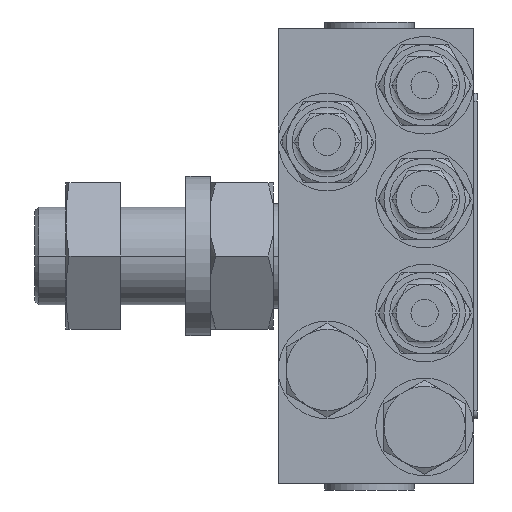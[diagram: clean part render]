
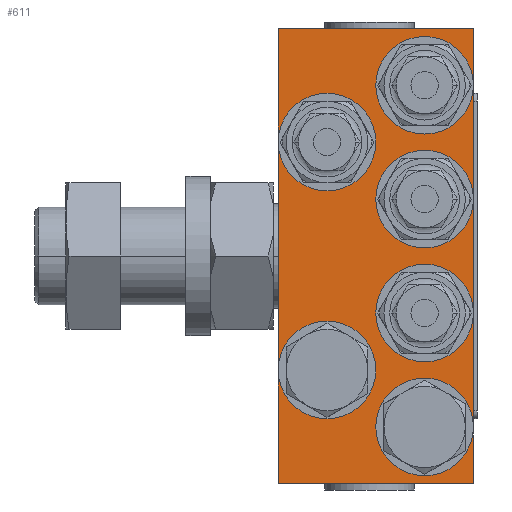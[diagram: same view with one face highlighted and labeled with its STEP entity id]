
A CAD part, left-side view. The second image highlights one B-rep face of the part: STEP entity #611.
In plain terms, the highlighted planar face has unit normal (-1, 0, 0).
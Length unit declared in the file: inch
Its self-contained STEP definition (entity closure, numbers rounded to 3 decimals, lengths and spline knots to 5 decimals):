
#1=DIRECTION('',(0.,-1.,0.));
#2=VECTOR('',#1,1.5);
#3=CARTESIAN_POINT('',(-0.5,0.75,0.));
#4=LINE('',#3,#2);
#17=CARTESIAN_POINT('',(-0.5,0.375,0.875));
#18=DIRECTION('',(-1.,0.,0.));
#19=DIRECTION('',(0.,1.,0.));
#20=AXIS2_PLACEMENT_3D('',#17,#18,#19);
#22=CARTESIAN_POINT('',(-0.5,0.375,0.875));
#23=DIRECTION('',(-1.,0.,0.));
#24=DIRECTION('',(0.,-1.,0.));
#25=AXIS2_PLACEMENT_3D('',#22,#23,#24);
#27=DIRECTION('',(0.,0.,1.));
#28=VECTOR('',#27,1.75);
#29=CARTESIAN_POINT('',(-0.5,0.75,0.875));
#30=LINE('',#29,#28);
#31=CARTESIAN_POINT('',(-0.5,0.375,2.625));
#32=DIRECTION('',(-1.,0.,0.));
#33=DIRECTION('',(0.,1.,0.));
#34=AXIS2_PLACEMENT_3D('',#31,#32,#33);
#36=CARTESIAN_POINT('',(-0.5,0.375,2.625));
#37=DIRECTION('',(-1.,0.,0.));
#38=DIRECTION('',(0.,-1.,0.));
#39=AXIS2_PLACEMENT_3D('',#36,#37,#38);
#41=DIRECTION('',(0.,0.,1.));
#42=VECTOR('',#41,0.875);
#43=CARTESIAN_POINT('',(-0.5,0.75,2.625));
#44=LINE('',#43,#42);
#45=CARTESIAN_POINT('',(-0.5,-0.375,3.062));
#46=DIRECTION('',(-1.,0.,0.));
#47=DIRECTION('',(0.,-1.,0.));
#48=AXIS2_PLACEMENT_3D('',#45,#46,#47);
#50=CARTESIAN_POINT('',(-0.5,-0.375,3.062));
#51=DIRECTION('',(-1.,0.,0.));
#52=DIRECTION('',(0.,1.,0.));
#53=AXIS2_PLACEMENT_3D('',#50,#51,#52);
#55=CARTESIAN_POINT('',(-0.5,-0.375,2.187));
#56=DIRECTION('',(-1.,0.,0.));
#57=DIRECTION('',(0.,-1.,0.));
#58=AXIS2_PLACEMENT_3D('',#55,#56,#57);
#60=CARTESIAN_POINT('',(-0.5,-0.375,2.187));
#61=DIRECTION('',(-1.,0.,0.));
#62=DIRECTION('',(0.,1.,0.));
#63=AXIS2_PLACEMENT_3D('',#60,#61,#62);
#65=CARTESIAN_POINT('',(-0.5,-0.375,1.312));
#66=DIRECTION('',(-1.,0.,0.));
#67=DIRECTION('',(0.,-1.,0.));
#68=AXIS2_PLACEMENT_3D('',#65,#66,#67);
#70=CARTESIAN_POINT('',(-0.5,-0.375,1.312));
#71=DIRECTION('',(-1.,0.,0.));
#72=DIRECTION('',(0.,1.,0.));
#73=AXIS2_PLACEMENT_3D('',#70,#71,#72);
#75=CARTESIAN_POINT('',(-0.5,-0.375,0.437));
#76=DIRECTION('',(-1.,0.,0.));
#77=DIRECTION('',(0.,-1.,0.));
#78=AXIS2_PLACEMENT_3D('',#75,#76,#77);
#80=CARTESIAN_POINT('',(-0.5,-0.375,0.437));
#81=DIRECTION('',(-1.,0.,0.));
#82=DIRECTION('',(0.,1.,0.));
#83=AXIS2_PLACEMENT_3D('',#80,#81,#82);
#85=DIRECTION('',(0.,0.,1.));
#86=VECTOR('',#85,0.875);
#87=CARTESIAN_POINT('',(-0.5,0.75,0.));
#88=LINE('',#87,#86);
#217=DIRECTION('',(0.,0.,1.));
#218=VECTOR('',#217,0.437);
#219=CARTESIAN_POINT('',(-0.5,-0.75,0.));
#220=LINE('',#219,#218);
#221=DIRECTION('',(0.,0.,1.));
#222=VECTOR('',#221,0.875);
#223=CARTESIAN_POINT('',(-0.5,-0.75,0.437));
#224=LINE('',#223,#222);
#225=DIRECTION('',(0.,0.,1.));
#226=VECTOR('',#225,0.875);
#227=CARTESIAN_POINT('',(-0.5,-0.75,1.312));
#228=LINE('',#227,#226);
#229=DIRECTION('',(0.,0.,1.));
#230=VECTOR('',#229,0.875);
#231=CARTESIAN_POINT('',(-0.5,-0.75,2.187));
#232=LINE('',#231,#230);
#233=DIRECTION('',(0.,0.,1.));
#234=VECTOR('',#233,0.438);
#235=CARTESIAN_POINT('',(-0.5,-0.75,3.062));
#236=LINE('',#235,#234);
#237=DIRECTION('',(0.,-1.,0.));
#238=VECTOR('',#237,1.5);
#239=CARTESIAN_POINT('',(-0.5,0.75,3.5));
#240=LINE('',#239,#238);
#433=CARTESIAN_POINT('',(-0.5,0.75,0.));
#434=CARTESIAN_POINT('',(-0.5,-0.75,0.));
#435=VERTEX_POINT('',#433);
#436=VERTEX_POINT('',#434);
#441=CARTESIAN_POINT('',(-0.5,0.75,3.5));
#442=CARTESIAN_POINT('',(-0.5,-0.75,3.5));
#443=VERTEX_POINT('',#441);
#444=VERTEX_POINT('',#442);
#451=CARTESIAN_POINT('',(-0.5,-0.75,3.062));
#452=VERTEX_POINT('',#451);
#487=CARTESIAN_POINT('',(-0.5,0.,3.062));
#488=VERTEX_POINT('',#487);
#493=CARTESIAN_POINT('',(-0.5,0.,2.187));
#494=CARTESIAN_POINT('',(-0.5,-0.75,2.187));
#495=VERTEX_POINT('',#493);
#496=VERTEX_POINT('',#494);
#501=CARTESIAN_POINT('',(-0.5,0.,1.312));
#502=CARTESIAN_POINT('',(-0.5,-0.75,1.312));
#503=VERTEX_POINT('',#501);
#504=VERTEX_POINT('',#502);
#509=CARTESIAN_POINT('',(-0.5,0.,0.437));
#510=CARTESIAN_POINT('',(-0.5,-0.75,0.437));
#511=VERTEX_POINT('',#509);
#512=VERTEX_POINT('',#510);
#533=CARTESIAN_POINT('',(-0.5,0.75,2.625));
#534=CARTESIAN_POINT('',(-0.5,0.,2.625));
#535=VERTEX_POINT('',#533);
#536=VERTEX_POINT('',#534);
#541=CARTESIAN_POINT('',(-0.5,0.75,0.875));
#542=CARTESIAN_POINT('',(-0.5,0.,0.875));
#543=VERTEX_POINT('',#541);
#544=VERTEX_POINT('',#542);
#561=CARTESIAN_POINT('',(-0.5,0.75,0.));
#562=DIRECTION('',(-1.,0.,0.));
#563=DIRECTION('',(0.,-1.,0.));
#564=AXIS2_PLACEMENT_3D('',#561,#562,#563);
#565=PLANE('',#564);
#567=ORIENTED_EDGE('',*,*,#566,.T.);
#569=ORIENTED_EDGE('',*,*,#568,.T.);
#571=ORIENTED_EDGE('',*,*,#570,.T.);
#573=ORIENTED_EDGE('',*,*,#572,.T.);
#575=ORIENTED_EDGE('',*,*,#574,.T.);
#577=ORIENTED_EDGE('',*,*,#576,.T.);
#579=ORIENTED_EDGE('',*,*,#578,.T.);
#581=ORIENTED_EDGE('',*,*,#580,.F.);
#583=ORIENTED_EDGE('',*,*,#582,.T.);
#585=ORIENTED_EDGE('',*,*,#584,.T.);
#587=ORIENTED_EDGE('',*,*,#586,.F.);
#589=ORIENTED_EDGE('',*,*,#588,.T.);
#591=ORIENTED_EDGE('',*,*,#590,.T.);
#593=ORIENTED_EDGE('',*,*,#592,.F.);
#595=ORIENTED_EDGE('',*,*,#594,.T.);
#597=ORIENTED_EDGE('',*,*,#596,.T.);
#599=ORIENTED_EDGE('',*,*,#598,.F.);
#601=ORIENTED_EDGE('',*,*,#600,.T.);
#603=ORIENTED_EDGE('',*,*,#602,.T.);
#605=ORIENTED_EDGE('',*,*,#604,.F.);
#606=ORIENTED_EDGE('',*,*,#550,.F.);
#608=ORIENTED_EDGE('',*,*,#607,.T.);
#609=EDGE_LOOP('',(#567,#569,#571,#573,#575,#577,#579,#581,#583,#585,#587,#589,
#591,#593,#595,#597,#599,#601,#603,#605,#606,#608));
#610=FACE_OUTER_BOUND('',#609,.F.);
#611=ADVANCED_FACE('',(#610),#565,.T.);
#21=CIRCLE('',#20,0.375);
#26=CIRCLE('',#25,0.375);
#35=CIRCLE('',#34,0.375);
#40=CIRCLE('',#39,0.375);
#49=CIRCLE('',#48,0.375);
#54=CIRCLE('',#53,0.375);
#59=CIRCLE('',#58,0.375);
#64=CIRCLE('',#63,0.375);
#69=CIRCLE('',#68,0.375);
#74=CIRCLE('',#73,0.375);
#79=CIRCLE('',#78,0.375);
#84=CIRCLE('',#83,0.375);
#550=EDGE_CURVE('',#435,#436,#4,.T.);
#566=EDGE_CURVE('',#543,#544,#21,.T.);
#568=EDGE_CURVE('',#544,#543,#26,.T.);
#570=EDGE_CURVE('',#543,#535,#30,.T.);
#572=EDGE_CURVE('',#535,#536,#35,.T.);
#574=EDGE_CURVE('',#536,#535,#40,.T.);
#576=EDGE_CURVE('',#535,#443,#44,.T.);
#578=EDGE_CURVE('',#443,#444,#240,.T.);
#580=EDGE_CURVE('',#452,#444,#236,.T.);
#582=EDGE_CURVE('',#452,#488,#49,.T.);
#584=EDGE_CURVE('',#488,#452,#54,.T.);
#586=EDGE_CURVE('',#496,#452,#232,.T.);
#588=EDGE_CURVE('',#496,#495,#59,.T.);
#590=EDGE_CURVE('',#495,#496,#64,.T.);
#592=EDGE_CURVE('',#504,#496,#228,.T.);
#594=EDGE_CURVE('',#504,#503,#69,.T.);
#596=EDGE_CURVE('',#503,#504,#74,.T.);
#598=EDGE_CURVE('',#512,#504,#224,.T.);
#600=EDGE_CURVE('',#512,#511,#79,.T.);
#602=EDGE_CURVE('',#511,#512,#84,.T.);
#604=EDGE_CURVE('',#436,#512,#220,.T.);
#607=EDGE_CURVE('',#435,#543,#88,.T.);
